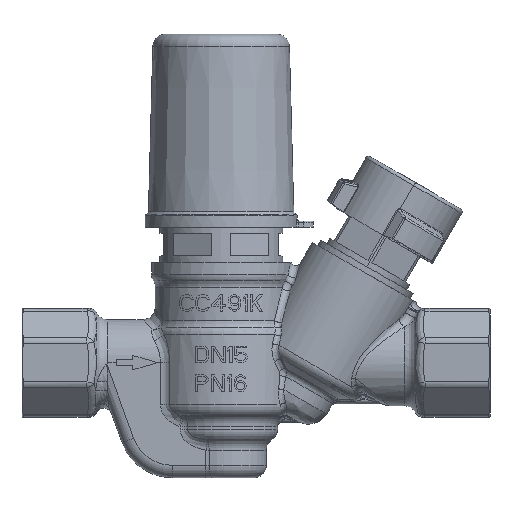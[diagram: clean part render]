
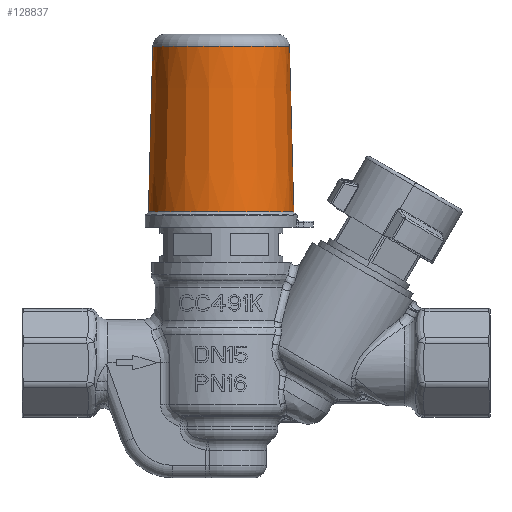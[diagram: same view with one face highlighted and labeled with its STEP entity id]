
A CAD part, top view. The second image highlights one B-rep face of the part: STEP entity #128837.
In plain terms, the highlighted conical face has half-angle 1.5 degrees and reference radius 17.174 mm.
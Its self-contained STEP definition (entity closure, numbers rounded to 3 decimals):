
#127450=DIRECTION('',(-0.026,1.,0.));
#127451=VECTOR('',#127450,40.335);
#127452=CARTESIAN_POINT('',(17.702,3.758,0.));
#127453=LINE('',#127452,#127451);
#127459=DIRECTION('',(0.026,1.,0.));
#127460=VECTOR('',#127459,40.335);
#127461=CARTESIAN_POINT('',(-17.702,3.758,0.));
#127462=LINE('',#127461,#127460);
#127491=CARTESIAN_POINT('',(0.,3.758,0.));
#127492=DIRECTION('',(0.,-1.,0.));
#127493=DIRECTION('',(1.,0.,0.));
#127494=AXIS2_PLACEMENT_3D('',#127491,#127492,#127493);
#127496=CARTESIAN_POINT('',(0.,44.079,0.));
#127497=DIRECTION('',(0.,1.,0.));
#127498=DIRECTION('',(-1.,0.,0.));
#127499=AXIS2_PLACEMENT_3D('',#127496,#127497,#127498);
#128502=CARTESIAN_POINT('',(-16.646,44.079,0.));
#128503=CARTESIAN_POINT('',(16.646,44.079,0.));
#128504=VERTEX_POINT('',#128502);
#128505=VERTEX_POINT('',#128503);
#128692=CARTESIAN_POINT('',(17.702,3.758,0.));
#128693=CARTESIAN_POINT('',(-17.702,3.758,0.));
#128694=VERTEX_POINT('',#128692);
#128695=VERTEX_POINT('',#128693);
#128826=CARTESIAN_POINT('',(0.,23.918,0.));
#128827=DIRECTION('',(0.,-1.,0.));
#128828=DIRECTION('',(-1.,0.,0.));
#128829=AXIS2_PLACEMENT_3D('',#128826,#128827,#128828);
#128830=CONICAL_SURFACE('',#128829,17.174,1.5);
#128831=ORIENTED_EDGE('',*,*,#128820,.T.);
#128832=ORIENTED_EDGE('',*,*,#128764,.T.);
#128833=ORIENTED_EDGE('',*,*,#128734,.T.);
#128834=ORIENTED_EDGE('',*,*,#128761,.F.);
#128835=EDGE_LOOP('',(#128831,#128832,#128833,#128834));
#128836=FACE_OUTER_BOUND('',#128835,.F.);
#128837=ADVANCED_FACE('',(#128836),#128830,.T.);
#127495=CIRCLE('',#127494,17.702);
#127500=CIRCLE('',#127499,16.646);
#128734=EDGE_CURVE('',#128504,#128505,#127500,.T.);
#128761=EDGE_CURVE('',#128694,#128505,#127453,.T.);
#128764=EDGE_CURVE('',#128695,#128504,#127462,.T.);
#128820=EDGE_CURVE('',#128694,#128695,#127495,.T.);
